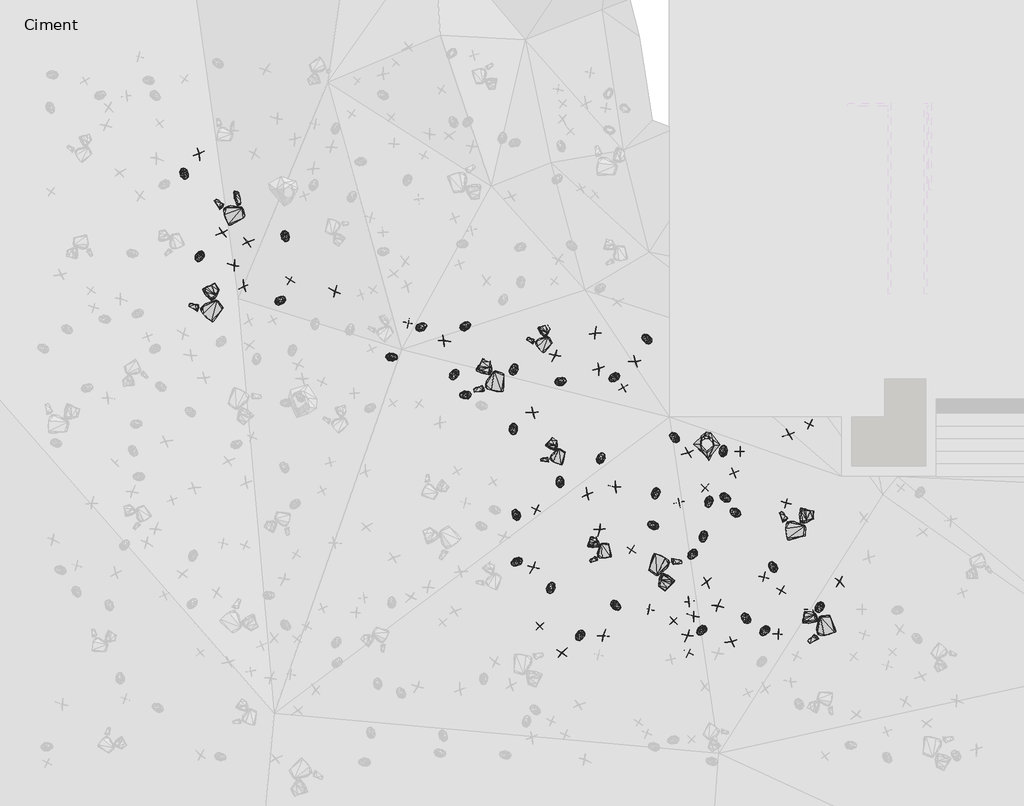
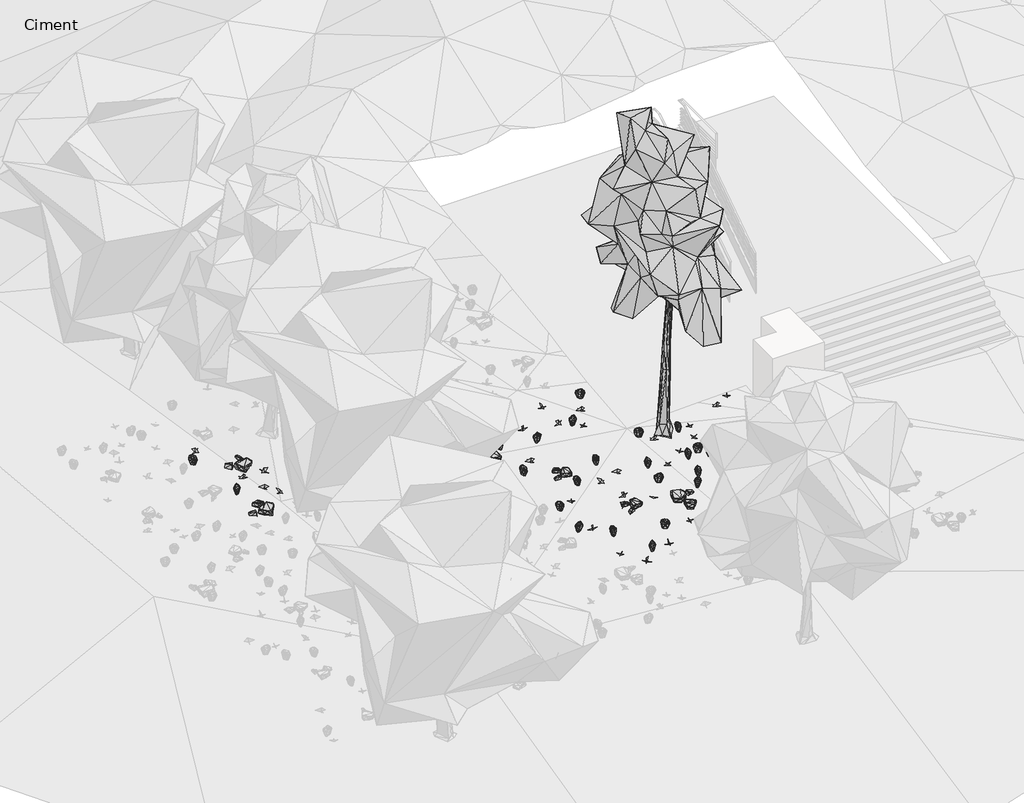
# One storey, part 9 of 30: 90 geographic elements.
"""IFC4 building model written with IfcOpenShell, lengths in millimetres."""

from ifc_helpers import new_model, si_unit, origin, place, context, project, spatial, transform, mapped, element, save
from components import geographic_element_6488e99b, enscape_assetdefinition_bush_025_fern_enscape_5718bf32, enscape_assetdefinition_bush_054_plant_09_version_2_enscape_7b546a12, enscape_assetdefinition_bush_062_plant_09_version_3_enscape_ccf8c8eb, enscape_assetdefinition_stone_013_group_enscape_516da325, enscape_assetdefinition_stone_013_group_enscape_db9b3e91

model = new_model("IFC4")

# Units and contexts
model_context = context("Model", 3, world=origin())
ifc_project = project(units=[si_unit("LENGTHUNIT", "METRE", prefix="MILLI")], contexts=[model_context])

# Site, building, storey
site = spatial("IfcSite", under=ifc_project)
building = spatial("IfcBuilding", under=site)
storey = spatial("IfcBuildingStorey", under=building, Name="Ciment", Elevation=-1500.0)

# Geographic elements
placement = place(None, origin())
geographic_element_shape = geographic_element_6488e99b(model_context)
element("IfcGeographicElement", 1, ObjectType="Enscape AssetDefinition - Coniferous Tree 009 Pine : Enscape AssetDefinition - Coniferous Tree 009 Pine", at=placement, inside=storey, context=model_context, shape_type="MappedRepresentation", body=[
    mapped(geographic_element_shape, transform((-3343.5459137, -10991.8115997, -1388.892889), x_axis=(1.0, 0.0, 0.0), y_axis=(0.0, 1.0, 0.0), z_axis=(0.0, 0.0, 1.0))),
])
enscape_assetdefinition_bush_025_fern_enscape_shape = enscape_assetdefinition_bush_025_fern_enscape_5718bf32(model_context)
element("IfcGeographicElement", 2, ObjectType="Enscape AssetDefinition - Bush 025 Fern : Enscape AssetDefinition - Bush 025 Fern", at=placement, inside=storey, context=model_context, shape_type="MappedRepresentation", body=[
    mapped(enscape_assetdefinition_bush_025_fern_enscape_shape, transform((-671.7967987, -14915.7762527, -1611.3506556), x_axis=(-0.31532319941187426, -0.9489843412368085, 0.0), y_axis=(0.9489843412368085, -0.31532319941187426, 0.0), z_axis=(0.0, 0.0, 1.0))),
])
element("IfcGeographicElement", 3, ObjectType="Enscape AssetDefinition - Bush 025 Fern : Enscape AssetDefinition - Bush 025 Fern", at=placement, inside=storey, context=model_context, shape_type="MappedRepresentation", body=[
    mapped(enscape_assetdefinition_bush_025_fern_enscape_shape, transform((-15375.8010864, -6587.0952606, -2000.0), x_axis=(-0.43578829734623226, -0.9000491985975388, 0.0), y_axis=(0.9000491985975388, -0.43578829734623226, 0.0), z_axis=(0.0, 0.0, 1.0))),
])
element("IfcGeographicElement", 4, ObjectType="Enscape AssetDefinition - Bush 025 Fern : Enscape AssetDefinition - Bush 025 Fern", at=placement, inside=storey, context=model_context, shape_type="MappedRepresentation", body=[
    mapped(enscape_assetdefinition_bush_025_fern_enscape_shape, transform((-5495.9373474, -14877.448082, -1682.1316481), x_axis=(0.7869368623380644, -0.6170335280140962, 0.0), y_axis=(0.6170335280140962, 0.7869368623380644, 0.0), z_axis=(0.0, 0.0, 1.0))),
])
element("IfcGeographicElement", 5, ObjectType="Enscape AssetDefinition - Bush 025 Fern : Enscape AssetDefinition - Bush 025 Fern", at=placement, inside=storey, context=model_context, shape_type="MappedRepresentation", body=[
    mapped(enscape_assetdefinition_bush_025_fern_enscape_shape, transform((-15739.8395538, -4629.1027069, -2000.0), x_axis=(0.5000478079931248, -0.8659978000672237, 0.0), y_axis=(0.8659978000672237, 0.5000478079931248, 0.0), z_axis=(0.0, 0.0, 1.0))),
])
element("IfcGeographicElement", 6, ObjectType="Enscape AssetDefinition - Bush 025 Fern : Enscape AssetDefinition - Bush 025 Fern", at=placement, inside=storey, context=model_context, shape_type="MappedRepresentation", body=[
    mapped(enscape_assetdefinition_bush_025_fern_enscape_shape, transform((-3296.2360382, -12411.3750458, -1413.4610891), x_axis=(-0.17278731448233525, -0.98495915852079, 0.0), y_axis=(0.98495915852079, -0.17278731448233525, 0.0), z_axis=(0.0, 0.0, 1.0))),
])
element("IfcGeographicElement", 7, ObjectType="Enscape AssetDefinition - Bush 025 Fern : Enscape AssetDefinition - Bush 025 Fern", at=placement, inside=storey, context=model_context, shape_type="MappedRepresentation", body=[
    mapped(enscape_assetdefinition_bush_025_fern_enscape_shape, transform((-3468.7922001, -15463.5219574, -1720.7783461), x_axis=(-0.6122623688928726, -0.7906546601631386, 0.0), y_axis=(0.7906546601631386, -0.6122623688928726, 0.0), z_axis=(0.0, 0.0, 1.0))),
])
element("IfcGeographicElement", 8, ObjectType="Enscape AssetDefinition - Bush 025 Fern : Enscape AssetDefinition - Bush 025 Fern", at=placement, inside=storey, context=model_context, shape_type="MappedRepresentation", body=[
    mapped(enscape_assetdefinition_bush_025_fern_enscape_shape, transform((-4109.4837189, -10870.2821732, -1281.0561657), x_axis=(-0.783588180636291, 0.6212805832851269, 0.0), y_axis=(-0.6212805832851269, -0.783588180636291, 0.0), z_axis=(0.0, 0.0, 1.0))),
])
element("IfcGeographicElement", 9, ObjectType="Enscape AssetDefinition - Bush 025 Fern : Enscape AssetDefinition - Bush 025 Fern", at=placement, inside=storey, context=model_context, shape_type="MappedRepresentation", body=[
    mapped(enscape_assetdefinition_bush_025_fern_enscape_shape, transform((-4620.3346252, -12958.070755, -1488.5646105), x_axis=(-0.9616861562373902, 0.2741527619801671, 0.0), y_axis=(-0.2741527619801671, -0.9616861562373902, 0.0), z_axis=(0.0, 0.0, 1.0))),
])
element("IfcGeographicElement", 10, ObjectType="Enscape AssetDefinition - Bush 025 Fern : Enscape AssetDefinition - Bush 025 Fern", at=placement, inside=storey, context=model_context, shape_type="MappedRepresentation", body=[
    mapped(enscape_assetdefinition_bush_025_fern_enscape_shape, transform((-6353.2371521, -15584.9514008, -1758.1880093), x_axis=(-0.4281542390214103, -0.9037056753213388, 0.0), y_axis=(0.9037056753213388, -0.4281542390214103, 0.0), z_axis=(0.0, 0.0, 1.0))),
])
element("IfcGeographicElement", 11, ObjectType="Enscape AssetDefinition - Bush 025 Fern : Enscape AssetDefinition - Bush 025 Fern", at=placement, inside=storey, context=model_context, shape_type="MappedRepresentation", body=[
    mapped(enscape_assetdefinition_bush_025_fern_enscape_shape, transform((-7913.3243561, -9259.5806122, -1363.1556034), x_axis=(0.2865658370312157, 0.9580605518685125, 0.0), y_axis=(-0.9580605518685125, 0.2865658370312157, 0.0), z_axis=(0.0, 0.0, 1.0))),
])
element("IfcGeographicElement", 12, ObjectType="Enscape AssetDefinition - Bush 025 Fern : Enscape AssetDefinition - Bush 025 Fern", at=placement, inside=storey, context=model_context, shape_type="MappedRepresentation", body=[
    mapped(enscape_assetdefinition_bush_025_fern_enscape_shape, transform((-4558.0859184, -12213.060379, -1415.8755541), x_axis=(-0.11225986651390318, -0.9936788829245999, 0.0), y_axis=(0.9936788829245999, -0.11225986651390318, 0.0), z_axis=(0.0, 0.0, 1.0))),
])
element("IfcGeographicElement", 13, ObjectType="Enscape AssetDefinition - Bush 025 Fern : Enscape AssetDefinition - Bush 025 Fern", at=placement, inside=storey, context=model_context, shape_type="MappedRepresentation", body=[
    mapped(enscape_assetdefinition_bush_025_fern_enscape_shape, transform((-7861.1311913, -12704.9274445, -1516.1085129), x_axis=(-0.4652344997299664, 0.8851874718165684, 0.0), y_axis=(-0.8851874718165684, -0.4652344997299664, 0.0), z_axis=(0.0, 0.0, 1.0))),
])
element("IfcGeographicElement", 14, ObjectType="Enscape AssetDefinition - Bush 025 Fern : Enscape AssetDefinition - Bush 025 Fern", at=placement, inside=storey, context=model_context, shape_type="MappedRepresentation", body=[
    mapped(enscape_assetdefinition_bush_025_fern_enscape_shape, transform((-3687.4463558, -13656.8698883, -1546.9795465), x_axis=(-0.5884139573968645, -0.8085598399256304, 0.0), y_axis=(0.8085598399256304, -0.5884139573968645, 0.0), z_axis=(0.0, 0.0, 1.0))),
])
element("IfcGeographicElement", 15, ObjectType="Enscape AssetDefinition - Bush 025 Fern : Enscape AssetDefinition - Bush 025 Fern", at=placement, inside=storey, context=model_context, shape_type="MappedRepresentation", body=[
    mapped(enscape_assetdefinition_bush_025_fern_enscape_shape, transform((-6820.8289146, -11926.2065887, -1431.4131737), x_axis=(-0.19605815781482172, 0.9805922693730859, 0.0), y_axis=(-0.9805922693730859, -0.19605815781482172, 0.0), z_axis=(0.0, 0.0, 1.0))),
])
element("IfcGeographicElement", 16, ObjectType="Enscape AssetDefinition - Bush 025 Fern : Enscape AssetDefinition - Bush 025 Fern", at=placement, inside=storey, context=model_context, shape_type="MappedRepresentation", body=[
    mapped(enscape_assetdefinition_bush_025_fern_enscape_shape, transform((-9060.1272583, -8239.5362854, -1320.5134869), x_axis=(0.7361107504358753, 0.6768611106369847, 0.0), y_axis=(-0.6768611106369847, 0.7361107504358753, 0.0), z_axis=(0.0, 0.0, 1.0))),
])
element("IfcGeographicElement", 17, ObjectType="Enscape AssetDefinition - Bush 025 Fern : Enscape AssetDefinition - Bush 025 Fern", at=placement, inside=storey, context=model_context, shape_type="MappedRepresentation", body=[
    mapped(enscape_assetdefinition_bush_025_fern_enscape_shape, transform((-13448.9879608, -7629.7397614, -1836.5954161), x_axis=(0.7917968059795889, 0.6107845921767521, 0.0), y_axis=(-0.6107845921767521, 0.7917968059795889, 0.0), z_axis=(0.0, 0.0, 1.0))),
])
element("IfcGeographicElement", 18, ObjectType="Enscape AssetDefinition - Bush 025 Fern : Enscape AssetDefinition - Bush 025 Fern", at=placement, inside=storey, context=model_context, shape_type="MappedRepresentation", body=[
    mapped(enscape_assetdefinition_bush_025_fern_enscape_shape, transform((-10105.5202484, -8258.6574554, -1415.2902365), x_axis=(0.8400430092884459, 0.5425198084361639, 0.0), y_axis=(-0.5425198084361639, 0.8400430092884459, 0.0), z_axis=(0.0, 0.0, 1.0))),
])
element("IfcGeographicElement", 19, ObjectType="Enscape AssetDefinition - Bush 025 Fern : Enscape AssetDefinition - Bush 025 Fern", at=placement, inside=storey, context=model_context, shape_type="MappedRepresentation", body=[
    mapped(enscape_assetdefinition_bush_025_fern_enscape_shape, transform((-1772.4779844, -13947.1340179, -1527.3715258), x_axis=(-0.5898743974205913, 0.8074950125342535, 0.0), y_axis=(-0.8074950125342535, -0.5898743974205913, 0.0), z_axis=(0.0, 0.0, 1.0))),
])
element("IfcGeographicElement", 20, ObjectType="Enscape AssetDefinition - Bush 025 Fern : Enscape AssetDefinition - Bush 025 Fern", at=placement, inside=storey, context=model_context, shape_type="MappedRepresentation", body=[
    mapped(enscape_assetdefinition_bush_025_fern_enscape_shape, transform((-7932.6019287, -10690.2332306, -1439.442277), x_axis=(0.17297811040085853, -0.9849256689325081, 0.0), y_axis=(0.9849256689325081, 0.17297811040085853, 0.0), z_axis=(0.0, 0.0, 1.0))),
])
element("IfcGeographicElement", 21, ObjectType="Enscape AssetDefinition - Bush 025 Fern : Enscape AssetDefinition - Bush 025 Fern", at=placement, inside=storey, context=model_context, shape_type="MappedRepresentation", body=[
    mapped(enscape_assetdefinition_bush_025_fern_enscape_shape, transform((-9340.4369354, -9393.4650421, -1460.3123665), x_axis=(-0.4865325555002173, -0.873662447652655, 0.0), y_axis=(0.873662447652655, -0.4865325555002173, 0.0), z_axis=(0.0, 0.0, 1.0))),
])
element("IfcGeographicElement", 22, ObjectType="Enscape AssetDefinition - Bush 025 Fern : Enscape AssetDefinition - Bush 025 Fern", at=placement, inside=storey, context=model_context, shape_type="MappedRepresentation", body=[
    mapped(enscape_assetdefinition_bush_025_fern_enscape_shape, transform((-13339.3907547, -6112.7204895, -1628.138423), x_axis=(0.409776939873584, -0.9121857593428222, 0.0), y_axis=(0.9121857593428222, 0.409776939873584, 0.0), z_axis=(0.0, 0.0, 1.0))),
])
element("IfcGeographicElement", 23, ObjectType="Enscape AssetDefinition - Bush 025 Fern : Enscape AssetDefinition - Bush 025 Fern", at=placement, inside=storey, context=model_context, shape_type="MappedRepresentation", body=[
    mapped(enscape_assetdefinition_bush_025_fern_enscape_shape, transform((-2943.649292, -11194.6659088, -1283.7760448), x_axis=(-0.0047653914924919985, 0.9999886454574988, 0.0), y_axis=(-0.9999886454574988, -0.0047653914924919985, 0.0), z_axis=(0.0, 0.0, 1.0))),
])
element("IfcGeographicElement", 24, ObjectType="Enscape AssetDefinition - Bush 025 Fern : Enscape AssetDefinition - Bush 025 Fern", at=placement, inside=storey, context=model_context, shape_type="MappedRepresentation", body=[
    mapped(enscape_assetdefinition_bush_025_fern_enscape_shape, transform((-6799.9897003, -9554.0828705, -1318.7824488), x_axis=(0.9357055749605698, 0.3527819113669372, 0.0), y_axis=(-0.3527819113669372, 0.9357055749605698, 0.0), z_axis=(0.0, 0.0, 1.0))),
])
element("IfcGeographicElement", 25, ObjectType="Enscape AssetDefinition - Bush 025 Fern : Enscape AssetDefinition - Bush 025 Fern", at=placement, inside=storey, context=model_context, shape_type="MappedRepresentation", body=[
    mapped(enscape_assetdefinition_bush_025_fern_enscape_shape, transform((-5546.1616516, -9458.4941864, -1214.2053843), x_axis=(-0.7628732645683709, -0.6465480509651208, 0.0), y_axis=(0.6465480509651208, -0.7628732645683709, 0.0), z_axis=(0.0, 0.0, 1.0))),
])
element("IfcGeographicElement", 26, ObjectType="Enscape AssetDefinition - Bush 025 Fern : Enscape AssetDefinition - Bush 025 Fern", at=placement, inside=storey, context=model_context, shape_type="MappedRepresentation", body=[
    mapped(enscape_assetdefinition_bush_025_fern_enscape_shape, transform((-10807.2338104, -8974.1773605, -1533.4320068), x_axis=(0.9967826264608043, 0.08015232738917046, 0.0), y_axis=(-0.08015232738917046, 0.9967826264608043, 0.0), z_axis=(0.0, 0.0, 1.0))),
])
element("IfcGeographicElement", 27, ObjectType="Enscape AssetDefinition - Bush 025 Fern : Enscape AssetDefinition - Bush 025 Fern", at=placement, inside=storey, context=model_context, shape_type="MappedRepresentation", body=[
    mapped(enscape_assetdefinition_bush_025_fern_enscape_shape, transform((-3426.9161224, -13236.6352081, -1498.6796379), x_axis=(-0.19631898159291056, -0.9805400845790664, 0.0), y_axis=(0.9805400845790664, -0.19631898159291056, 0.0), z_axis=(0.0, 0.0, 1.0))),
])
element("IfcGeographicElement", 28, ObjectType="Enscape AssetDefinition - Bush 025 Fern : Enscape AssetDefinition - Bush 025 Fern", at=placement, inside=storey, context=model_context, shape_type="MappedRepresentation", body=[
    mapped(enscape_assetdefinition_bush_025_fern_enscape_shape, transform((-7858.6959839, -13830.1296234, -1601.5160084), x_axis=(-0.8465717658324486, -0.5322745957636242, 0.0), y_axis=(0.5322745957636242, -0.8465717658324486, 0.0), z_axis=(0.0, 0.0, 1.0))),
])
element("IfcGeographicElement", 29, ObjectType="Enscape AssetDefinition - Bush 025 Fern : Enscape AssetDefinition - Bush 025 Fern", at=placement, inside=storey, context=model_context, shape_type="MappedRepresentation", body=[
    mapped(enscape_assetdefinition_bush_025_fern_enscape_shape, transform((-2668.1630611, -12654.5915604, -1421.7222929), x_axis=(-0.9230650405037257, 0.3846439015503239, 0.0), y_axis=(-0.3846439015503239, -0.9230650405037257, 0.0), z_axis=(0.0, 0.0, 1.0))),
])
element("IfcGeographicElement", 30, ObjectType="Enscape AssetDefinition - Bush 025 Fern : Enscape AssetDefinition - Bush 025 Fern", at=placement, inside=storey, context=model_context, shape_type="MappedRepresentation", body=[
    mapped(enscape_assetdefinition_bush_025_fern_enscape_shape, transform((-5846.1513519, -11367.3801422, -1358.8709831), x_axis=(0.284185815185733, 0.9587692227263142, 0.0), y_axis=(-0.9587692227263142, 0.284185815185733, 0.0), z_axis=(0.0, 0.0, 1.0))),
])
element("IfcGeographicElement", 31, ObjectType="Enscape AssetDefinition - Bush 025 Fern : Enscape AssetDefinition - Bush 025 Fern", at=placement, inside=storey, context=model_context, shape_type="MappedRepresentation", body=[
    mapped(enscape_assetdefinition_bush_025_fern_enscape_shape, transform((-4764.2364502, -8536.7326736, -1067.8232908), x_axis=(-0.8572407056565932, 0.5149158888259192, 0.0), y_axis=(-0.5149158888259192, -0.8572407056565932, 0.0), z_axis=(0.0, 0.0, 1.0))),
])
element("IfcGeographicElement", 32, ObjectType="Enscape AssetDefinition - Bush 025 Fern : Enscape AssetDefinition - Bush 025 Fern", at=placement, inside=storey, context=model_context, shape_type="MappedRepresentation", body=[
    mapped(enscape_assetdefinition_bush_025_fern_enscape_shape, transform((-2897.9911804, -12317.735672, -1394.0969706), x_axis=(0.9049598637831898, -0.4254969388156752, 0.0), y_axis=(0.4254969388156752, 0.9049598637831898, 0.0), z_axis=(0.0, 0.0, 1.0))),
])
element("IfcGeographicElement", 33, ObjectType="Enscape AssetDefinition - Bush 025 Fern : Enscape AssetDefinition - Bush 025 Fern", at=placement, inside=storey, context=model_context, shape_type="MappedRepresentation", body=[
    mapped(enscape_assetdefinition_bush_025_fern_enscape_shape, transform((-9073.0381012, -9867.8073883, -1465.4434919), x_axis=(-0.9839605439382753, -0.1783862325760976, 0.0), y_axis=(0.1783862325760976, -0.9839605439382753, 0.0), z_axis=(0.0, 0.0, 1.0))),
])
element("IfcGeographicElement", 34, ObjectType="Enscape AssetDefinition - Bush 025 Fern : Enscape AssetDefinition - Bush 025 Fern", at=placement, inside=storey, context=model_context, shape_type="MappedRepresentation", body=[
    mapped(enscape_assetdefinition_bush_025_fern_enscape_shape, transform((-7031.015873, -14441.3633347, -1653.4173489), x_axis=(0.26238765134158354, 0.9649625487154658, 0.0), y_axis=(-0.9649625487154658, 0.26238765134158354, 0.0), z_axis=(0.0, 0.0, 1.0))),
])
element("IfcGeographicElement", 35, ObjectType="Enscape AssetDefinition - Bush 025 Fern : Enscape AssetDefinition - Bush 025 Fern", at=placement, inside=storey, context=model_context, shape_type="MappedRepresentation", body=[
    mapped(enscape_assetdefinition_bush_025_fern_enscape_shape, transform((-1975.456357, -15470.8385468, -1683.7456226), x_axis=(-0.6152058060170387, -0.7883665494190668, 0.0), y_axis=(0.7883665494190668, -0.6152058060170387, 0.0), z_axis=(0.0, 0.0, 1.0))),
])
element("IfcGeographicElement", 36, ObjectType="Enscape AssetDefinition - Bush 025 Fern : Enscape AssetDefinition - Bush 025 Fern", at=placement, inside=storey, context=model_context, shape_type="MappedRepresentation", body=[
    mapped(enscape_assetdefinition_bush_025_fern_enscape_shape, transform((-2411.6380215, -15163.9528275, -1664.3127203), x_axis=(-0.7026509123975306, 0.7115347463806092, 0.0), y_axis=(-0.7115347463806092, -0.7026509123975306, 0.0), z_axis=(0.0, 0.0, 1.0))),
])
enscape_assetdefinition_bush_054_plant_09_version_2_enscape_shape = enscape_assetdefinition_bush_054_plant_09_version_2_enscape_7b546a12(model_context)
element("IfcGeographicElement", 37, ObjectType="Enscape AssetDefinition - Bush 054 Plant 09, Version 2 : Enscape AssetDefinition - Bush 054 Plant 09, Version 2", at=placement, inside=storey, context=model_context, shape_type="MappedRepresentation", body=[
    mapped(enscape_assetdefinition_bush_054_plant_09_version_2_enscape_shape, transform((-4126.3389587, -15240.896225, -1705.268383), x_axis=(0.6911650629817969, 0.7226969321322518, 0.0), y_axis=(-0.7226969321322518, 0.6911650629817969, 0.0), z_axis=(0.0, 0.0, 1.0))),
])
element("IfcGeographicElement", 38, ObjectType="Enscape AssetDefinition - Bush 054 Plant 09, Version 2 : Enscape AssetDefinition - Bush 054 Plant 09, Version 2", at=placement, inside=storey, context=model_context, shape_type="MappedRepresentation", body=[
    mapped(enscape_assetdefinition_bush_054_plant_09_version_2_enscape_shape, transform((-2695.734024, -11715.1241302, -1329.1680813), x_axis=(-0.9089671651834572, -0.4168677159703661, 0.0), y_axis=(0.4168677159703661, -0.9089671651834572, 0.0), z_axis=(0.0, 0.0, 1.0))),
])
element("IfcGeographicElement", 39, ObjectType="Enscape AssetDefinition - Bush 054 Plant 09, Version 2 : Enscape AssetDefinition - Bush 054 Plant 09, Version 2", at=placement, inside=storey, context=model_context, shape_type="MappedRepresentation", body=[
    mapped(enscape_assetdefinition_bush_054_plant_09_version_2_enscape_shape, transform((-7307.8322411, -15361.6428375, -1744.9675798), x_axis=(0.7285107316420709, -0.6850343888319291, 0.0), y_axis=(0.6850343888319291, 0.7285107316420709, 0.0), z_axis=(0.0, 0.0, 1.0))),
])
element("IfcGeographicElement", 40, ObjectType="Enscape AssetDefinition - Bush 054 Plant 09, Version 2 : Enscape AssetDefinition - Bush 054 Plant 09, Version 2", at=placement, inside=storey, context=model_context, shape_type="MappedRepresentation", body=[
    mapped(enscape_assetdefinition_bush_054_plant_09_version_2_enscape_shape, transform((-4708.3797455, -14956.4151764, -1682.8451157), x_axis=(-0.9928977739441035, 0.1189706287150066, 0.0), y_axis=(-0.1189706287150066, -0.9928977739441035, 0.0), z_axis=(0.0, 0.0, 1.0))),
])
element("IfcGeographicElement", 41, ObjectType="Enscape AssetDefinition - Bush 054 Plant 09, Version 2 : Enscape AssetDefinition - Bush 054 Plant 09, Version 2", at=placement, inside=storey, context=model_context, shape_type="MappedRepresentation", body=[
    mapped(enscape_assetdefinition_bush_054_plant_09_version_2_enscape_shape, transform((-10423.2702255, -8165.8382416, -1430.555582), x_axis=(0.9902052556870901, -0.13961930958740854, 0.0), y_axis=(0.13961930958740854, 0.9902052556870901, 0.0), z_axis=(0.0, 0.0, 1.0))),
])
element("IfcGeographicElement", 42, ObjectType="Enscape AssetDefinition - Bush 054 Plant 09, Version 2 : Enscape AssetDefinition - Bush 054 Plant 09, Version 2", at=placement, inside=storey, context=model_context, shape_type="MappedRepresentation", body=[
    mapped(enscape_assetdefinition_bush_054_plant_09_version_2_enscape_shape, transform((-3384.2277527, -12081.8109512, -1382.9735518), x_axis=(0.7893787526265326, -0.6139064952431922, 0.0), y_axis=(0.6139064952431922, 0.7893787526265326, 0.0), z_axis=(0.0, 0.0, 1.0))),
])
element("IfcGeographicElement", 43, ObjectType="Enscape AssetDefinition - Bush 054 Plant 09, Version 2 : Enscape AssetDefinition - Bush 054 Plant 09, Version 2", at=placement, inside=storey, context=model_context, shape_type="MappedRepresentation", body=[
    mapped(enscape_assetdefinition_bush_054_plant_09_version_2_enscape_shape, transform((-2551.7883301, -11218.8472748, -1276.268363), x_axis=(0.9967332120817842, 0.08076449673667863, 0.0), y_axis=(-0.08076449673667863, 0.9967332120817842, 0.0), z_axis=(0.0, 0.0, 1.0))),
])
element("IfcGeographicElement", 44, ObjectType="Enscape AssetDefinition - Bush 054 Plant 09, Version 2 : Enscape AssetDefinition - Bush 054 Plant 09, Version 2", at=placement, inside=storey, context=model_context, shape_type="MappedRepresentation", body=[
    mapped(enscape_assetdefinition_bush_054_plant_09_version_2_enscape_shape, transform((-3768.737793, -15991.9261932, -1774.8450041), x_axis=(0.40464937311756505, 0.9144719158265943, 0.0), y_axis=(-0.9144719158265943, 0.40464937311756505, 0.0), z_axis=(0.0, 0.0, 1.0))),
])
element("IfcGeographicElement", 45, ObjectType="Enscape AssetDefinition - Bush 054 Plant 09, Version 2 : Enscape AssetDefinition - Bush 054 Plant 09, Version 2", at=placement, inside=storey, context=model_context, shape_type="MappedRepresentation", body=[
    mapped(enscape_assetdefinition_bush_054_plant_09_version_2_enscape_shape, transform((-13220.5047607, -7147.084713, -1737.7845049), x_axis=(0.44897211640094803, 0.8935457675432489, 0.0), y_axis=(-0.8935457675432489, 0.44897211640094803, 0.0), z_axis=(0.0, 0.0, 1.0))),
])
element("IfcGeographicElement", 46, ObjectType="Enscape AssetDefinition - Bush 054 Plant 09, Version 2 : Enscape AssetDefinition - Bush 054 Plant 09, Version 2", at=placement, inside=storey, context=model_context, shape_type="MappedRepresentation", body=[
    mapped(enscape_assetdefinition_bush_054_plant_09_version_2_enscape_shape, transform((-1989.4428253, -14193.7732697, -1557.3385954), x_axis=(-0.171429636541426, -0.9851963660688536, 0.0), y_axis=(0.9851963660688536, -0.171429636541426, 0.0), z_axis=(0.0, 0.0, 1.0))),
])
element("IfcGeographicElement", 47, ObjectType="Enscape AssetDefinition - Bush 054 Plant 09, Version 2 : Enscape AssetDefinition - Bush 054 Plant 09, Version 2", at=placement, inside=storey, context=model_context, shape_type="MappedRepresentation", body=[
    mapped(enscape_assetdefinition_bush_054_plant_09_version_2_enscape_shape, transform((-1650.1463652, -15550.6191254, -1684.622407), x_axis=(0.999979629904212, -0.0063827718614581, 0.0), y_axis=(0.0063827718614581, 0.999979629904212, 0.0), z_axis=(0.0, 0.0, 1.0))),
])
element("IfcGeographicElement", 48, ObjectType="Enscape AssetDefinition - Bush 054 Plant 09, Version 2 : Enscape AssetDefinition - Bush 054 Plant 09, Version 2", at=placement, inside=storey, context=model_context, shape_type="MappedRepresentation", body=[
    mapped(enscape_assetdefinition_bush_054_plant_09_version_2_enscape_shape, transform((-1572.5879669, -14508.5611343, -1578.0441761), x_axis=(-0.44122337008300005, -0.8973973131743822, 0.0), y_axis=(0.8973973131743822, -0.44122337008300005, 0.0), z_axis=(0.0, 0.0, 1.0))),
])
element("IfcGeographicElement", 49, ObjectType="Enscape AssetDefinition - Bush 054 Plant 09, Version 2 : Enscape AssetDefinition - Bush 054 Plant 09, Version 2", at=placement, inside=storey, context=model_context, shape_type="MappedRepresentation", body=[
    mapped(enscape_assetdefinition_bush_054_plant_09_version_2_enscape_shape, transform((-905.0045609, -10573.6865997, -1160.6029272), x_axis=(0.926969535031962, -0.37513661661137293, 0.0), y_axis=(0.37513661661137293, 0.926969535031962, 0.0), z_axis=(0.0, 0.0, 1.0))),
])
element("IfcGeographicElement", 50, ObjectType="Enscape AssetDefinition - Bush 054 Plant 09, Version 2 : Enscape AssetDefinition - Bush 054 Plant 09, Version 2", at=placement, inside=storey, context=model_context, shape_type="MappedRepresentation", body=[
    mapped(enscape_assetdefinition_bush_054_plant_09_version_2_enscape_shape, transform((-1455.2497864, -12440.4697418, -1369.8003292), x_axis=(0.20382833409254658, 0.9790066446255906, 0.0), y_axis=(-0.9790066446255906, 0.20382833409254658, 0.0), z_axis=(0.0, 0.0, 1.0))),
])
element("IfcGeographicElement", 51, ObjectType="Enscape AssetDefinition - Bush 054 Plant 09, Version 2 : Enscape AssetDefinition - Bush 054 Plant 09, Version 2", at=placement, inside=storey, context=model_context, shape_type="MappedRepresentation", body=[
    mapped(enscape_assetdefinition_bush_054_plant_09_version_2_enscape_shape, transform((-7388.4773254, -12594.7666168, -1487.3452187), x_axis=(0.9290136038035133, -0.37004557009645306, 0.0), y_axis=(0.37004557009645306, 0.9290136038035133, 0.0), z_axis=(0.0, 0.0, 1.0))),
])
element("IfcGeographicElement", 52, ObjectType="Enscape AssetDefinition - Bush 054 Plant 09, Version 2 : Enscape AssetDefinition - Bush 054 Plant 09, Version 2", at=placement, inside=storey, context=model_context, shape_type="MappedRepresentation", body=[
    mapped(enscape_assetdefinition_bush_054_plant_09_version_2_enscape_shape, transform((-3759.7484589, -14768.7969208, -1656.3266516), x_axis=(-0.9897556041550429, -0.14277200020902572, 0.0), y_axis=(0.14277200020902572, -0.9897556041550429, 0.0), z_axis=(0.0, 0.0, 1.0))),
])
element("IfcGeographicElement", 53, ObjectType="Enscape AssetDefinition - Bush 054 Plant 09, Version 2 : Enscape AssetDefinition - Bush 054 Plant 09, Version 2", at=placement, inside=storey, context=model_context, shape_type="MappedRepresentation", body=[
    mapped(enscape_assetdefinition_bush_054_plant_09_version_2_enscape_shape, transform((-5130.5294037, -13546.2503433, -1550.0113964), x_axis=(-0.5074191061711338, -0.8616993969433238, 0.0), y_axis=(0.8616993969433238, -0.5074191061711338, 0.0), z_axis=(0.0, 0.0, 1.0))),
])
element("IfcGeographicElement", 54, ObjectType="Enscape AssetDefinition - Bush 054 Plant 09, Version 2 : Enscape AssetDefinition - Bush 054 Plant 09, Version 2", at=placement, inside=storey, context=model_context, shape_type="MappedRepresentation", body=[
    mapped(enscape_assetdefinition_bush_054_plant_09_version_2_enscape_shape, transform((-3991.8041229, -12423.7384796, -1431.2908649), x_axis=(-0.24365256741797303, 0.9698625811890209, 0.0), y_axis=(-0.9698625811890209, -0.24365256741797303, 0.0), z_axis=(0.0, 0.0, 1.0))),
])
element("IfcGeographicElement", 55, ObjectType="Enscape AssetDefinition - Bush 054 Plant 09, Version 2 : Enscape AssetDefinition - Bush 054 Plant 09, Version 2", at=placement, inside=storey, context=model_context, shape_type="MappedRepresentation", body=[
    mapped(enscape_assetdefinition_bush_054_plant_09_version_2_enscape_shape, transform((-5315.3362274, -9694.2691803, -1227.3350954), x_axis=(-0.544465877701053, 0.8387829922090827, 0.0), y_axis=(-0.8387829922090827, -0.544465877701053, 0.0), z_axis=(0.0, 0.0, 1.0))),
])
enscape_assetdefinition_bush_062_plant_09_version_3_enscape_shape = enscape_assetdefinition_bush_062_plant_09_version_3_enscape_ccf8c8eb(model_context)
element("IfcGeographicElement", 56, ObjectType="Enscape AssetDefinition - Bush 062 Plant 09, Version 3 : Enscape AssetDefinition - Bush 062 Plant 09, Version 3", at=placement, inside=storey, context=model_context, shape_type="MappedRepresentation", body=[
    mapped(enscape_assetdefinition_bush_062_plant_09_version_3_enscape_shape, transform((-12170.3681946, -7410.282135, -1594.548583), x_axis=(0.1286857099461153, 0.9916854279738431, 0.0), y_axis=(-0.9916854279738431, 0.1286857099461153, 0.0), z_axis=(0.0, 0.0, 1.0))),
])
element("IfcGeographicElement", 57, ObjectType="Enscape AssetDefinition - Bush 062 Plant 09, Version 3 : Enscape AssetDefinition - Bush 062 Plant 09, Version 3", at=placement, inside=storey, context=model_context, shape_type="MappedRepresentation", body=[
    mapped(enscape_assetdefinition_bush_062_plant_09_version_3_enscape_shape, transform((-2761.7702484, -15728.6062241, -1729.2127609), x_axis=(-0.5043093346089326, 0.8635230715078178, 0.0), y_axis=(-0.8635230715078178, -0.5043093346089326, 0.0), z_axis=(0.0, 0.0, 1.0))),
])
element("IfcGeographicElement", 58, ObjectType="Enscape AssetDefinition - Bush 062 Plant 09, Version 3 : Enscape AssetDefinition - Bush 062 Plant 09, Version 3", at=placement, inside=storey, context=model_context, shape_type="MappedRepresentation", body=[
    mapped(enscape_assetdefinition_bush_062_plant_09_version_3_enscape_shape, transform((-3664.434433, -15115.5719757, -1689.0672445), x_axis=(-0.09720503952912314, 0.9952643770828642, 0.0), y_axis=(-0.9952643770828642, -0.09720503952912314, 0.0), z_axis=(0.0, 0.0, 1.0))),
])
element("IfcGeographicElement", 59, ObjectType="Enscape AssetDefinition - Bush 062 Plant 09, Version 3 : Enscape AssetDefinition - Bush 062 Plant 09, Version 3", at=placement, inside=storey, context=model_context, shape_type="MappedRepresentation", body=[
    mapped(enscape_assetdefinition_bush_062_plant_09_version_3_enscape_shape, transform((-5047.0561981, -9083.070755, -1131.7710876), x_axis=(-0.4044914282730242, 0.9145417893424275, 0.0), y_axis=(-0.9145417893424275, -0.4044914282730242, 0.0), z_axis=(0.0, 0.0, 1.0))),
])
element("IfcGeographicElement", 60, ObjectType="Enscape AssetDefinition - Bush 062 Plant 09, Version 3 : Enscape AssetDefinition - Bush 062 Plant 09, Version 3", at=placement, inside=storey, context=model_context, shape_type="MappedRepresentation", body=[
    mapped(enscape_assetdefinition_bush_062_plant_09_version_3_enscape_shape, transform((-3335.8402252, -14319.5400238, -1603.8653851), x_axis=(-0.7128705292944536, -0.7012956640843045, 0.0), y_axis=(0.7012956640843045, -0.7128705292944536, 0.0), z_axis=(0.0, 0.0, 1.0))),
])
element("IfcGeographicElement", 61, ObjectType="Enscape AssetDefinition - Bush 062 Plant 09, Version 3 : Enscape AssetDefinition - Bush 062 Plant 09, Version 3", at=placement, inside=storey, context=model_context, shape_type="MappedRepresentation", body=[
    mapped(enscape_assetdefinition_bush_062_plant_09_version_3_enscape_shape, transform((-14319.1738129, -7284.1129303, -1939.3074512), x_axis=(0.8617295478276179, 0.5073679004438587, 0.0), y_axis=(-0.5073679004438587, 0.8617295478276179, 0.0), z_axis=(0.0, 0.0, 1.0))),
])
element("IfcGeographicElement", 62, ObjectType="Enscape AssetDefinition - Bush 062 Plant 09, Version 3 : Enscape AssetDefinition - Bush 062 Plant 09, Version 3", at=placement, inside=storey, context=model_context, shape_type="MappedRepresentation", body=[
    mapped(enscape_assetdefinition_bush_062_plant_09_version_3_enscape_shape, transform((-6945.9438324, -8943.561554, -1251.5068054), x_axis=(-0.9957678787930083, 0.09190392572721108, 0.0), y_axis=(-0.09190392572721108, -0.9957678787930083, 0.0), z_axis=(0.0, 0.0, 1.0))),
])
element("IfcGeographicElement", 63, ObjectType="Enscape AssetDefinition - Bush 062 Plant 09, Version 3 : Enscape AssetDefinition - Bush 062 Plant 09, Version 3", at=placement, inside=storey, context=model_context, shape_type="MappedRepresentation", body=[
    mapped(enscape_assetdefinition_bush_062_plant_09_version_3_enscape_shape, transform((-3792.0513153, -11250.1020432, -1310.7303381), x_axis=(-0.6114528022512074, 0.7912809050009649, 0.0), y_axis=(-0.7912809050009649, -0.6114528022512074, 0.0), z_axis=(0.0, 0.0, 1.0))),
])
element("IfcGeographicElement", 64, ObjectType="Enscape AssetDefinition - Bush 062 Plant 09, Version 3 : Enscape AssetDefinition - Bush 062 Plant 09, Version 3", at=placement, inside=storey, context=model_context, shape_type="MappedRepresentation", body=[
    mapped(enscape_assetdefinition_bush_062_plant_09_version_3_enscape_shape, transform((-14839.4117355, -6025.9399414, -2000.0), x_axis=(-0.6572178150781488, 0.7537006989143, 0.0), y_axis=(-0.7537006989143, -0.6572178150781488, 0.0), z_axis=(0.0, 0.0, 1.0))),
])
element("IfcGeographicElement", 65, ObjectType="Enscape AssetDefinition - Bush 062 Plant 09, Version 3 : Enscape AssetDefinition - Bush 062 Plant 09, Version 3", at=placement, inside=storey, context=model_context, shape_type="MappedRepresentation", body=[
    mapped(enscape_assetdefinition_bush_062_plant_09_version_3_enscape_shape, transform((-7457.6091766, -13973.6680984, -1611.8848324), x_axis=(-0.9934130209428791, 0.11458869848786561, 0.0), y_axis=(-0.11458869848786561, -0.9934130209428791, 0.0), z_axis=(0.0, 0.0, 1.0))),
])
element("IfcGeographicElement", 66, ObjectType="Enscape AssetDefinition - Bush 062 Plant 09, Version 3 : Enscape AssetDefinition - Bush 062 Plant 09, Version 3", at=placement, inside=storey, context=model_context, shape_type="MappedRepresentation", body=[
    mapped(enscape_assetdefinition_bush_062_plant_09_version_3_enscape_shape, transform((-7476.4790535, -10295.8660126, -1400.1965523), x_axis=(-0.35071302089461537, 0.9364829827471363, 0.0), y_axis=(-0.9364829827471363, -0.35071302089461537, 0.0), z_axis=(0.0, 0.0, 1.0))),
])
element("IfcGeographicElement", 67, ObjectType="Enscape AssetDefinition - Bush 062 Plant 09, Version 3 : Enscape AssetDefinition - Bush 062 Plant 09, Version 3", at=placement, inside=storey, context=model_context, shape_type="MappedRepresentation", body=[
    mapped(enscape_assetdefinition_bush_062_plant_09_version_3_enscape_shape, transform((-5522.1862793, -12056.2353134, -1409.1765881), x_axis=(-0.20028590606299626, 0.9797374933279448, 0.0), y_axis=(-0.9797374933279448, -0.20028590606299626, 0.0), z_axis=(0.0, 0.0, 1.0))),
])
element("IfcGeographicElement", 68, ObjectType="Enscape AssetDefinition - Bush 062 Plant 09, Version 3 : Enscape AssetDefinition - Bush 062 Plant 09, Version 3", at=placement, inside=storey, context=model_context, shape_type="MappedRepresentation", body=[
    mapped(enscape_assetdefinition_bush_062_plant_09_version_3_enscape_shape, transform((-6178.6065102, -12222.9175568, -1431.0952425), x_axis=(0.8666975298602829, 0.4988340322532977, 0.0), y_axis=(-0.4988340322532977, 0.8666975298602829, 0.0), z_axis=(0.0, 0.0, 1.0))),
])
element("IfcGeographicElement", 69, ObjectType="Enscape AssetDefinition - Bush 062 Plant 09, Version 3 : Enscape AssetDefinition - Bush 062 Plant 09, Version 3", at=placement, inside=storey, context=model_context, shape_type="MappedRepresentation", body=[
    mapped(enscape_assetdefinition_bush_062_plant_09_version_3_enscape_shape, transform((-9569.5915222, -8581.8948746, -1398.5496759), x_axis=(0.23361122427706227, -0.9723300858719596, 0.0), y_axis=(0.9723300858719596, 0.23361122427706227, 0.0), z_axis=(0.0, 0.0, 1.0))),
])
element("IfcGeographicElement", 70, ObjectType="Enscape AssetDefinition - Bush 062 Plant 09, Version 3 : Enscape AssetDefinition - Bush 062 Plant 09, Version 3", at=placement, inside=storey, context=model_context, shape_type="MappedRepresentation", body=[
    mapped(enscape_assetdefinition_bush_062_plant_09_version_3_enscape_shape, transform((-6769.9317932, -15982.0375443, -1800.3071547), x_axis=(0.9062410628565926, -0.4227613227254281, 0.0), y_axis=(0.4227613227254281, 0.9062410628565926, 0.0), z_axis=(0.0, 0.0, 1.0))),
])
element("IfcGeographicElement", 71, ObjectType="Enscape AssetDefinition - Bush 062 Plant 09, Version 3 : Enscape AssetDefinition - Bush 062 Plant 09, Version 3", at=placement, inside=storey, context=model_context, shape_type="MappedRepresentation", body=[
    mapped(enscape_assetdefinition_bush_062_plant_09_version_3_enscape_shape, transform((-14561.6178513, -6798.8319397, -1999.1848469), x_axis=(-0.08593332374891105, 0.9963008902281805, 0.0), y_axis=(-0.9963008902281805, -0.08593332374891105, 0.0), z_axis=(0.0, 0.0, 1.0))),
])
element("IfcGeographicElement", 72, ObjectType="Enscape AssetDefinition - Bush 062 Plant 09, Version 3 : Enscape AssetDefinition - Bush 062 Plant 09, Version 3", at=placement, inside=storey, context=model_context, shape_type="MappedRepresentation", body=[
    mapped(enscape_assetdefinition_bush_062_plant_09_version_3_enscape_shape, transform((-15380.0468445, -4156.6257477, -2000.0), x_axis=(-0.8708591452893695, -0.4915326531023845, 0.0), y_axis=(0.4915326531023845, -0.8708591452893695, 0.0), z_axis=(0.0, 0.0, 1.0))),
])
element("IfcGeographicElement", 73, ObjectType="Enscape AssetDefinition - Bush 062 Plant 09, Version 3 : Enscape AssetDefinition - Bush 062 Plant 09, Version 3", at=placement, inside=storey, context=model_context, shape_type="MappedRepresentation", body=[
    mapped(enscape_assetdefinition_bush_062_plant_09_version_3_enscape_shape, transform((-5881.0787201, -13078.78685, -1511.3520622), x_axis=(-0.9884070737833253, -0.15182706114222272, 0.0), y_axis=(0.15182706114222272, -0.9884070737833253, 0.0), z_axis=(0.0, 0.0, 1.0))),
])
element("IfcGeographicElement", 74, ObjectType="Enscape AssetDefinition - Bush 062 Plant 09, Version 3 : Enscape AssetDefinition - Bush 062 Plant 09, Version 3", at=placement, inside=storey, context=model_context, shape_type="MappedRepresentation", body=[
    mapped(enscape_assetdefinition_bush_062_plant_09_version_3_enscape_shape, transform((-3795.2518463, -15590.1050568, -1736.1689806), x_axis=(-0.9984265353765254, 0.05607542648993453, 0.0), y_axis=(-0.05607542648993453, -0.9984265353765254, 0.0), z_axis=(0.0, 0.0, 1.0))),
])
element("IfcGeographicElement", 75, ObjectType="Enscape AssetDefinition - Bush 062 Plant 09, Version 3 : Enscape AssetDefinition - Bush 062 Plant 09, Version 3", at=placement, inside=storey, context=model_context, shape_type="MappedRepresentation", body=[
    mapped(enscape_assetdefinition_bush_062_plant_09_version_3_enscape_shape, transform((-3079.5936584, -14865.0608063, -1651.5343189), x_axis=(0.9980588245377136, -0.062278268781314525, 0.0), y_axis=(0.062278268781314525, 0.9980588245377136, 0.0), z_axis=(0.0, 0.0, 1.0))),
])
element("IfcGeographicElement", 76, ObjectType="Enscape AssetDefinition - Bush 062 Plant 09, Version 3 : Enscape AssetDefinition - Bush 062 Plant 09, Version 3", at=placement, inside=storey, context=model_context, shape_type="MappedRepresentation", body=[
    mapped(enscape_assetdefinition_bush_062_plant_09_version_3_enscape_shape, transform((-5992.4564362, -8398.2467651, -1111.576438), x_axis=(0.9783711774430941, 0.20685705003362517, 0.0), y_axis=(-0.20685705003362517, 0.9783711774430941, 0.0), z_axis=(0.0, 0.0, 1.0))),
])
element("IfcGeographicElement", 77, ObjectType="Enscape AssetDefinition - Bush 062 Plant 09, Version 3 : Enscape AssetDefinition - Bush 062 Plant 09, Version 3", at=placement, inside=storey, context=model_context, shape_type="MappedRepresentation", body=[
    mapped(enscape_assetdefinition_bush_062_plant_09_version_3_enscape_shape, transform((-5899.8184204, -9256.2236786, -1214.4055367), x_axis=(-0.9288320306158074, -0.3705010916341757, 0.0), y_axis=(0.3705010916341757, -0.9288320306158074, 0.0), z_axis=(0.0, 0.0, 1.0))),
])
element("IfcGeographicElement", 78, ObjectType="Enscape AssetDefinition - Bush 062 Plant 09, Version 3 : Enscape AssetDefinition - Bush 062 Plant 09, Version 3", at=placement, inside=storey, context=model_context, shape_type="MappedRepresentation", body=[
    mapped(enscape_assetdefinition_bush_062_plant_09_version_3_enscape_shape, transform((-14223.0911255, -6237.7376556, -1852.2418737), x_axis=(0.6667897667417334, -0.7452458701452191, 0.0), y_axis=(0.7452458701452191, 0.6667897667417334, 0.0), z_axis=(0.0, 0.0, 1.0))),
])
element("IfcGeographicElement", 79, ObjectType="Enscape AssetDefinition - Bush 062 Plant 09, Version 3 : Enscape AssetDefinition - Bush 062 Plant 09, Version 3", at=placement, inside=storey, context=model_context, shape_type="MappedRepresentation", body=[
    mapped(enscape_assetdefinition_bush_062_plant_09_version_3_enscape_shape, transform((-5795.0725555, -15578.420639, -1752.6420355), x_axis=(0.9988610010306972, 0.04771478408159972, 0.0), y_axis=(-0.04771478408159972, 0.9988610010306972, 0.0), z_axis=(0.0, 0.0, 1.0))),
])
element("IfcGeographicElement", 80, ObjectType="Enscape AssetDefinition - Bush 062 Plant 09, Version 3 : Enscape AssetDefinition - Bush 062 Plant 09, Version 3", at=placement, inside=storey, context=model_context, shape_type="MappedRepresentation", body=[
    mapped(enscape_assetdefinition_bush_062_plant_09_version_3_enscape_shape, transform((-177.7553558, -14311.3536835, -1545.8600521), x_axis=(-0.4333561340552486, -0.9012227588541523, 0.0), y_axis=(0.9012227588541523, -0.4333561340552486, 0.0), z_axis=(0.0, 0.0, 1.0))),
])
element("IfcGeographicElement", 81, ObjectType="Enscape AssetDefinition - Bush 062 Plant 09, Version 3 : Enscape AssetDefinition - Bush 062 Plant 09, Version 3", at=placement, inside=storey, context=model_context, shape_type="MappedRepresentation", body=[
    mapped(enscape_assetdefinition_bush_062_plant_09_version_3_enscape_shape, transform((-1399.6504545, -10816.0839081, -1195.8086491), x_axis=(-0.5997622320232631, 0.8001782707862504, 0.0), y_axis=(-0.8001782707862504, -0.5997622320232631, 0.0), z_axis=(0.0, 0.0, 1.0))),
])
enscape_assetdefinition_stone_013_group_enscape_shape = enscape_assetdefinition_stone_013_group_enscape_516da325(model_context)
element("IfcGeographicElement", 82, ObjectType="Enscape AssetDefinition - Stone 013 Group : Enscape AssetDefinition - Stone 013 Group", at=placement, inside=storey, context=model_context, shape_type="MappedRepresentation", body=[
    mapped(enscape_assetdefinition_stone_013_group_enscape_shape, transform((-14619.808197, -5386.9953156, -1950.1094818), x_axis=(-0.9233575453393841, -0.3839411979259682, 0.0), y_axis=(0.3839411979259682, -0.9233575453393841, 0.0), z_axis=(0.0, 0.0, 1.0))),
])
element("IfcGeographicElement", 83, ObjectType="Enscape AssetDefinition - Stone 013 Group : Enscape AssetDefinition - Stone 013 Group", at=placement, inside=storey, context=model_context, shape_type="MappedRepresentation", body=[
    mapped(enscape_assetdefinition_stone_013_group_enscape_shape, transform((-1256.3018799, -12880.3920746, -1408.4362984), x_axis=(-0.988212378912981, -0.1530891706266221, 0.0), y_axis=(0.1530891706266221, -0.988212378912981, 0.0), z_axis=(0.0, 0.0, 1.0))),
])
element("IfcGeographicElement", 84, ObjectType="Enscape AssetDefinition - Stone 013 Group : Enscape AssetDefinition - Stone 013 Group", at=placement, inside=storey, context=model_context, shape_type="MappedRepresentation", body=[
    mapped(enscape_assetdefinition_stone_013_group_enscape_shape, transform((-729.2327881, -15383.5163116, -1671.4681387), x_axis=(0.25746207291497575, -0.9662884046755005, 0.0), y_axis=(0.9662884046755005, 0.25746207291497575, 0.0), z_axis=(0.0, 0.0, 1.0))),
])
element("IfcGeographicElement", 85, ObjectType="Enscape AssetDefinition - Stone 013 Group : Enscape AssetDefinition - Stone 013 Group", at=placement, inside=storey, context=model_context, shape_type="MappedRepresentation", body=[
    mapped(enscape_assetdefinition_stone_013_group_enscape_shape, transform((-4303.290844, -13997.5070953, -1586.4253044), x_axis=(0.3801431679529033, 0.9249276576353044, 0.0), y_axis=(-0.9249276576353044, 0.3801431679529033, 0.0), z_axis=(0.0, 0.0, 1.0))),
])
element("IfcGeographicElement", 86, ObjectType="Enscape AssetDefinition - Stone 013 Group : Enscape AssetDefinition - Stone 013 Group", at=placement, inside=storey, context=model_context, shape_type="MappedRepresentation", body=[
    mapped(enscape_assetdefinition_stone_013_group_enscape_shape, transform((-8544.1074371, -9513.0901337, -1424.0241051), x_axis=(-0.13960039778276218, -0.9902079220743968, 0.0), y_axis=(0.9902079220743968, -0.13960039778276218, 0.0), z_axis=(0.0, 0.0, 1.0))),
])
element("IfcGeographicElement", 87, ObjectType="Enscape AssetDefinition - Stone 013 Group : Enscape AssetDefinition - Stone 013 Group", at=placement, inside=storey, context=model_context, shape_type="MappedRepresentation", body=[
    mapped(enscape_assetdefinition_stone_013_group_enscape_shape, transform((-15211.9579315, -7700.1628876, -2000.0), x_axis=(-0.674619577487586, -0.7381655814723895, 0.0), y_axis=(0.7381655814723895, -0.674619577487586, 0.0), z_axis=(0.0, 0.0, 1.0))),
])
enscape_assetdefinition_stone_013_group_enscape_2_shape = enscape_assetdefinition_stone_013_group_enscape_db9b3e91(model_context)
element("IfcGeographicElement", 88, ObjectType="Enscape AssetDefinition - Stone 013 Group : Enscape AssetDefinition - Stone 013 Group 2", at=placement, inside=storey, context=model_context, shape_type="MappedRepresentation", body=[
    mapped(enscape_assetdefinition_stone_013_group_enscape_2_shape, transform((-5925.8384705, -13580.321312, -1560.3114367), x_axis=(0.1165193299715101, -0.9931884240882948, 0.0), y_axis=(0.9931884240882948, 0.1165193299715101, 0.0), z_axis=(0.0, 0.0, 1.0))),
])
element("IfcGeographicElement", 89, ObjectType="Enscape AssetDefinition - Stone 013 Group : Enscape AssetDefinition - Stone 013 Group 2", at=placement, inside=storey, context=model_context, shape_type="MappedRepresentation", body=[
    mapped(enscape_assetdefinition_stone_013_group_enscape_2_shape, transform((-7298.7957001, -8535.9477997, -1225.4039049), x_axis=(-0.7317433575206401, -0.6815802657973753, 0.0), y_axis=(0.6815802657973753, -0.7317433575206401, 0.0), z_axis=(0.0, 0.0, 1.0))),
])
element("IfcGeographicElement", 90, ObjectType="Enscape AssetDefinition - Stone 013 Group : Enscape AssetDefinition - Stone 013 Group 2", at=placement, inside=storey, context=model_context, shape_type="MappedRepresentation", body=[
    mapped(enscape_assetdefinition_stone_013_group_enscape_2_shape, transform((-7004.1980743, -11272.6726532, -1414.8032665), x_axis=(-0.32701826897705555, -0.9450180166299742, 0.0), y_axis=(0.9450180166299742, -0.32701826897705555, 0.0), z_axis=(0.0, 0.0, 1.0))),
])

save(model, "model.ifc")
